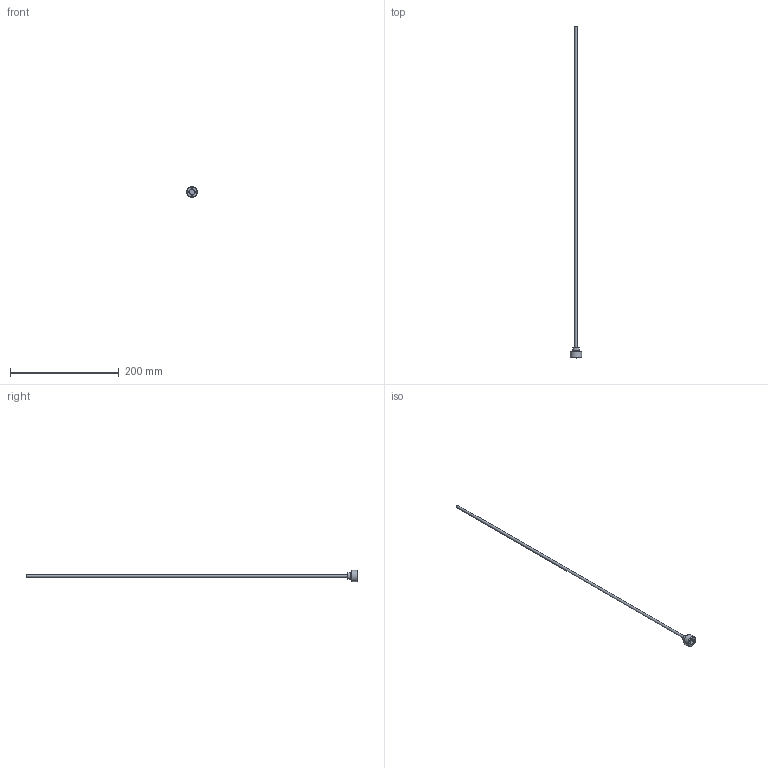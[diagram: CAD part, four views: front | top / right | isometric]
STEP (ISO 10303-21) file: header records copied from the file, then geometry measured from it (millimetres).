
FILE_DESCRIPTION(/* description */ (''),/* implementation_level */ '2;1');
FILE_NAME(/* name */ 'C:/Users/drich/Desktop/DR-500 v2.step',/* time_stamp */ '2020-01-08T16:10:48-06:00',/* author */ (''),/* organization */ (''),/* preprocessor_version */ 'ST-DEVELOPER v18',/* originating_system */ 'Autodesk Translation Framework v8.12.0.6',/* authorisation */ '');
FILE_SCHEMA (('AUTOMOTIVE_DESIGN { 1 0 10303 214 3 1 1 }'));
Length unit declared in the file: inch
Products named in the file (1): DR-500
Bounding box: 20.81 x 609.6 x 20.81 mm (x, y, z)
Volume: 14349 mm3; surface area: 10703 mm2
Topology: 2 solids, 2 shells, 20 faces, 45 edges, 31 vertices
Faces by surface type: plane 12, cylinder 3, cone 3, torus 2
Full cylindrical faces by diameter (mm): 4.724 x1, 11.1 x1, 20.813 x1
Entity records: 609 total; most frequent: CARTESIAN_POINT 109, DIRECTION 102, ORIENTED_EDGE 90, EDGE_CURVE 45, AXIS2_PLACEMENT_3D 42, VERTEX_POINT 31, EDGE_LOOP 22, CIRCLE 21
